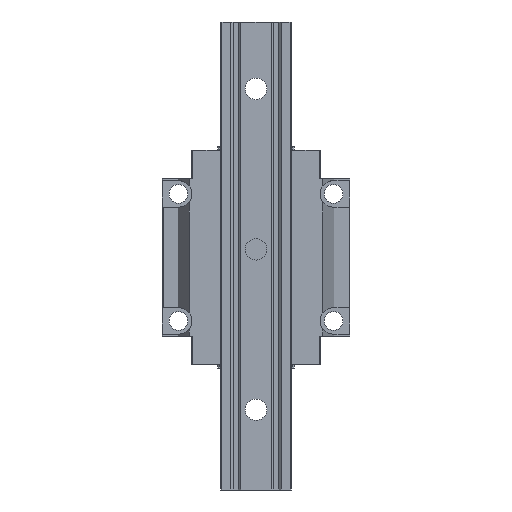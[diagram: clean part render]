
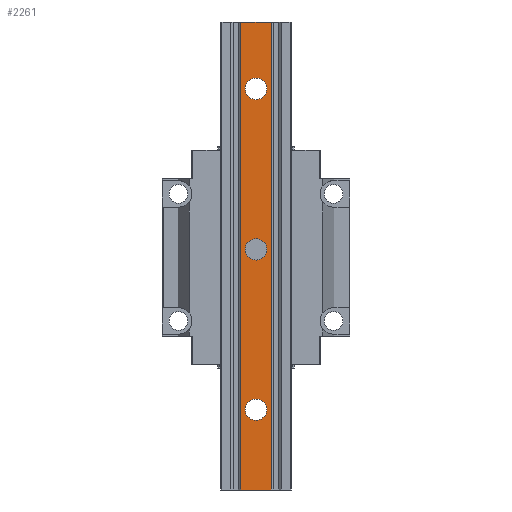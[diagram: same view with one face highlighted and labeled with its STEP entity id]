
A CAD part, front view. The second image highlights one B-rep face of the part: STEP entity #2261.
In plain terms, the highlighted planar face has unit normal (0, -1, 0).
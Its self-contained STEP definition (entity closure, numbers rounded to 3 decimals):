
#24 = DIRECTION ( 'NONE',  ( 0., 0., 1. ) ) ;
#218 = CARTESIAN_POINT ( 'NONE',  ( 0., 0., -50. ) ) ;
#408 = ORIENTED_EDGE ( 'NONE', *, *, #817, .T. ) ;
#473 = CIRCLE ( 'NONE', #1016, 8. ) ;
#476 = LINE ( 'NONE', #5521, #2181 ) ;
#607 = DIRECTION ( 'NONE',  ( 0., 0., -1. ) ) ;
#615 = AXIS2_PLACEMENT_3D ( 'NONE', #4730, #2275, #6010 ) ;
#739 = CIRCLE ( 'NONE', #5429, 8. ) ;
#803 = EDGE_CURVE ( 'NONE', #4840, #1601, #4343, .T. ) ;
#817 = EDGE_CURVE ( 'NONE', #2072, #4625, #739, .T. ) ;
#941 = ORIENTED_EDGE ( 'NONE', *, *, #2849, .T. ) ;
#1016 = AXIS2_PLACEMENT_3D ( 'NONE', #4485, #2425, #2473 ) ;
#1129 = CARTESIAN_POINT ( 'NONE',  ( -26.5, 0., -350. ) ) ;
#1312 = ORIENTED_EDGE ( 'NONE', *, *, #1387, .T. ) ;
#1332 = EDGE_LOOP ( 'NONE', ( #8113, #4576, #2952, #3954 ) ) ;
#1387 = EDGE_CURVE ( 'NONE', #6288, #6123, #3371, .T. ) ;
#1423 = AXIS2_PLACEMENT_3D ( 'NONE', #6503, #4472, #4516 ) ;
#1452 = CARTESIAN_POINT ( 'NONE',  ( 0., 0., -282. ) ) ;
#1460 = EDGE_LOOP ( 'NONE', ( #5198, #408 ) ) ;
#1486 = DIRECTION ( 'NONE',  ( 0., 1., 0. ) ) ;
#1561 = VERTEX_POINT ( 'NONE', #3082 ) ;
#1599 = FACE_OUTER_BOUND ( 'NONE', #1332, .T. ) ;
#1601 = VERTEX_POINT ( 'NONE', #3385 ) ;
#1637 = DIRECTION ( 'NONE',  ( 0., 0., 1. ) ) ;
#1875 = CIRCLE ( 'NONE', #2432, 8. ) ;
#1987 = EDGE_LOOP ( 'NONE', ( #8279, #7088 ) ) ;
#2072 = VERTEX_POINT ( 'NONE', #5021 ) ;
#2181 = VECTOR ( 'NONE', #1637, 1000. ) ;
#2261 = ADVANCED_FACE ( 'NONE', ( #3262, #7395, #5489, #1599 ), #2846, .T. ) ;
#2275 = DIRECTION ( 'NONE',  ( 0., -1., 0. ) ) ;
#2405 = VERTEX_POINT ( 'NONE', #5562 ) ;
#2425 = DIRECTION ( 'NONE',  ( 0., 1., 0. ) ) ;
#2432 = AXIS2_PLACEMENT_3D ( 'NONE', #218, #4715, #2506 ) ;
#2473 = DIRECTION ( 'NONE',  ( 0., 0., 1. ) ) ;
#2479 = EDGE_CURVE ( 'NONE', #6636, #3457, #476, .T. ) ;
#2506 = DIRECTION ( 'NONE',  ( 0., 0., 1. ) ) ;
#2846 = PLANE ( 'NONE',  #615 ) ;
#2849 = EDGE_CURVE ( 'NONE', #6123, #6288, #473, .T. ) ;
#2952 = ORIENTED_EDGE ( 'NONE', *, *, #3000, .T. ) ;
#3000 = EDGE_CURVE ( 'NONE', #1561, #2405, #5658, .T. ) ;
#3082 = CARTESIAN_POINT ( 'NONE',  ( -11.357, 0., 0. ) ) ;
#3091 = DIRECTION ( 'NONE',  ( 0., 0., 1. ) ) ;
#3139 = CARTESIAN_POINT ( 'NONE',  ( 0., 0., -298. ) ) ;
#3262 = FACE_BOUND ( 'NONE', #3540, .T. ) ;
#3371 = CIRCLE ( 'NONE', #5652, 8. ) ;
#3385 = CARTESIAN_POINT ( 'NONE',  ( 0., 0., -178. ) ) ;
#3457 = VERTEX_POINT ( 'NONE', #4400 ) ;
#3540 = EDGE_LOOP ( 'NONE', ( #941, #1312 ) ) ;
#3954 = ORIENTED_EDGE ( 'NONE', *, *, #4913, .T. ) ;
#3994 = CARTESIAN_POINT ( 'NONE',  ( 0., 0., -170. ) ) ;
#4030 = DIRECTION ( 'NONE',  ( 0., 0., 1. ) ) ;
#4290 = CARTESIAN_POINT ( 'NONE',  ( -11.357, 0., -700. ) ) ;
#4301 = CARTESIAN_POINT ( 'NONE',  ( 0., 0., -42. ) ) ;
#4343 = CIRCLE ( 'NONE', #1423, 8. ) ;
#4351 = LINE ( 'NONE', #6985, #5349 ) ;
#4381 = EDGE_CURVE ( 'NONE', #4625, #2072, #1875, .T. ) ;
#4400 = CARTESIAN_POINT ( 'NONE',  ( 11.357, 0., 0. ) ) ;
#4472 = DIRECTION ( 'NONE',  ( 0., 1., 0. ) ) ;
#4485 = CARTESIAN_POINT ( 'NONE',  ( 0., 0., -290. ) ) ;
#4516 = DIRECTION ( 'NONE',  ( 0., 0., 1. ) ) ;
#4576 = ORIENTED_EDGE ( 'NONE', *, *, #6326, .T. ) ;
#4625 = VERTEX_POINT ( 'NONE', #4301 ) ;
#4715 = DIRECTION ( 'NONE',  ( 0., 1., 0. ) ) ;
#4730 = CARTESIAN_POINT ( 'NONE',  ( -26.5, 0., -768.884 ) ) ;
#4840 = VERTEX_POINT ( 'NONE', #5491 ) ;
#4913 = EDGE_CURVE ( 'NONE', #2405, #6636, #5659, .T. ) ;
#5021 = CARTESIAN_POINT ( 'NONE',  ( 0., 0., -58. ) ) ;
#5135 = CARTESIAN_POINT ( 'NONE',  ( 11.357, 0., -350. ) ) ;
#5198 = ORIENTED_EDGE ( 'NONE', *, *, #4381, .T. ) ;
#5349 = VECTOR ( 'NONE', #7651, 1000. ) ;
#5429 = AXIS2_PLACEMENT_3D ( 'NONE', #5669, #8374, #3091 ) ;
#5489 = FACE_BOUND ( 'NONE', #1460, .T. ) ;
#5491 = CARTESIAN_POINT ( 'NONE',  ( 0., 0., -162. ) ) ;
#5521 = CARTESIAN_POINT ( 'NONE',  ( 11.357, 0., -768.884 ) ) ;
#5556 = VECTOR ( 'NONE', #8239, 1000. ) ;
#5562 = CARTESIAN_POINT ( 'NONE',  ( -11.357, 0., -350. ) ) ;
#5652 = AXIS2_PLACEMENT_3D ( 'NONE', #5840, #1486, #24 ) ;
#5658 = LINE ( 'NONE', #4290, #5990 ) ;
#5659 = LINE ( 'NONE', #1129, #5556 ) ;
#5669 = CARTESIAN_POINT ( 'NONE',  ( 0., 0., -50. ) ) ;
#5840 = CARTESIAN_POINT ( 'NONE',  ( 0., 0., -290. ) ) ;
#5990 = VECTOR ( 'NONE', #607, 1000. ) ;
#6010 = DIRECTION ( 'NONE',  ( 0., 0., -1. ) ) ;
#6123 = VERTEX_POINT ( 'NONE', #1452 ) ;
#6160 = AXIS2_PLACEMENT_3D ( 'NONE', #3994, #7805, #4030 ) ;
#6288 = VERTEX_POINT ( 'NONE', #3139 ) ;
#6326 = EDGE_CURVE ( 'NONE', #3457, #1561, #4351, .T. ) ;
#6503 = CARTESIAN_POINT ( 'NONE',  ( 0., 0., -170. ) ) ;
#6636 = VERTEX_POINT ( 'NONE', #5135 ) ;
#6985 = CARTESIAN_POINT ( 'NONE',  ( 26.5, 0., 0. ) ) ;
#7088 = ORIENTED_EDGE ( 'NONE', *, *, #7718, .T. ) ;
#7395 = FACE_BOUND ( 'NONE', #1987, .T. ) ;
#7406 = CIRCLE ( 'NONE', #6160, 8. ) ;
#7651 = DIRECTION ( 'NONE',  ( -1., 0., 0. ) ) ;
#7718 = EDGE_CURVE ( 'NONE', #1601, #4840, #7406, .T. ) ;
#7805 = DIRECTION ( 'NONE',  ( 0., 1., 0. ) ) ;
#8113 = ORIENTED_EDGE ( 'NONE', *, *, #2479, .T. ) ;
#8239 = DIRECTION ( 'NONE',  ( 1., 0., 0. ) ) ;
#8279 = ORIENTED_EDGE ( 'NONE', *, *, #803, .T. ) ;
#8374 = DIRECTION ( 'NONE',  ( 0., 1., 0. ) ) ;
